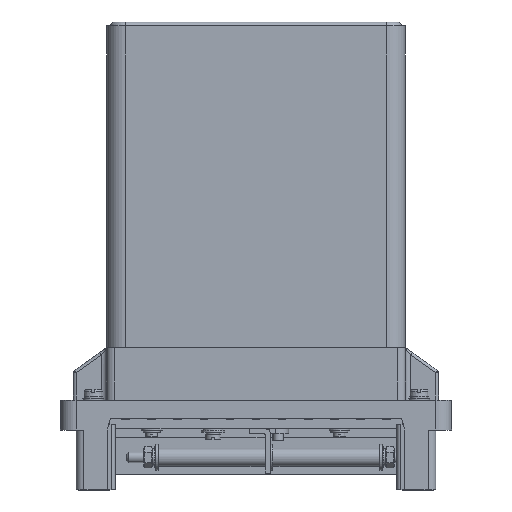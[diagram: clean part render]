
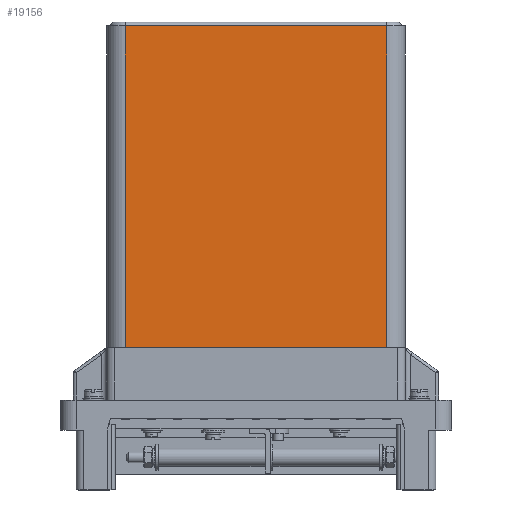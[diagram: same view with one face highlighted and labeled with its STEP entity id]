
A CAD part, left-side view. The second image highlights one B-rep face of the part: STEP entity #19156.
In plain terms, the highlighted planar face has unit normal (-1, 0, 0).
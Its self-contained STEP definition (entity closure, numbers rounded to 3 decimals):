
#19156=ADVANCED_FACE('',(#73416),#73418,.T.);
#73416=FACE_BOUND('',#73417,.T.);
#73417=EDGE_LOOP('',(#117279,#117280,#117281,#117282));
#73418=PLANE('',#73419);
#73419=AXIS2_PLACEMENT_3D('',#73420,#73421,#73422);
#73420=CARTESIAN_POINT('',(-32.15,50.15,31.5));
#73421=DIRECTION('',(-1.,0.,0.));
#73422=DIRECTION('',(0.,-1.,0.));
#117279=ORIENTED_EDGE('',*,*,#149786,.T.);
#117280=ORIENTED_EDGE('',*,*,#151335,.T.);
#117281=ORIENTED_EDGE('',*,*,#151336,.F.);
#117282=ORIENTED_EDGE('',*,*,#151337,.F.);
#149786=EDGE_CURVE('',#170903,#170901,#170904,.T.);
#151335=EDGE_CURVE('',#170901,#173723,#173725,.T.);
#151336=EDGE_CURVE('',#173726,#173723,#173727,.T.);
#151337=EDGE_CURVE('',#170903,#173726,#173728,.T.);
#170901=VERTEX_POINT('',#212169);
#170903=VERTEX_POINT('',#212174);
#170904=LINE('',#212175,#212176);
#173723=VERTEX_POINT('',#220091);
#173725=LINE('',#220096,#220097);
#173726=VERTEX_POINT('',#220099);
#173727=LINE('',#220100,#220101);
#173728=LINE('',#220103,#220104);
#212169=CARTESIAN_POINT('',(-32.15,-50.15,31.5));
#212174=CARTESIAN_POINT('',(-32.15,50.15,31.5));
#212175=CARTESIAN_POINT('',(-32.15,50.15,31.5));
#212176=VECTOR('',#212177,1.);
#212177=DIRECTION('',(0.,-1.,0.));
#220091=CARTESIAN_POINT('',(-32.15,-50.15,155.));
#220096=CARTESIAN_POINT('',(-32.15,-50.15,31.5));
#220097=VECTOR('',#220098,1.);
#220098=DIRECTION('',(0.,0.,1.));
#220099=CARTESIAN_POINT('',(-32.15,50.15,155.));
#220100=CARTESIAN_POINT('',(-32.15,50.15,155.));
#220101=VECTOR('',#220102,1.);
#220102=DIRECTION('',(0.,-1.,0.));
#220103=CARTESIAN_POINT('',(-32.15,50.15,31.5));
#220104=VECTOR('',#220105,1.);
#220105=DIRECTION('',(0.,0.,1.));
